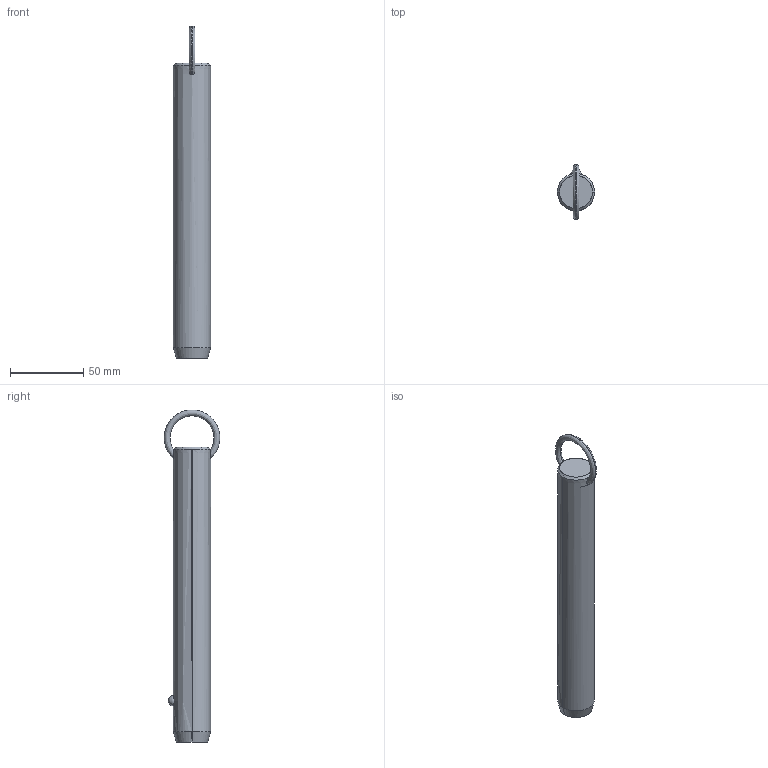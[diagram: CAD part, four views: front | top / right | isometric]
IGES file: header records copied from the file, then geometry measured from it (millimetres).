
Start section: SolidWorks IGES file using analytic representation for surfaces
Global section: file name: C:\Users\liam_\OneDrive\Documents\WORK\Work for WixRoyd\Job Files\J-00019 - Matt Davis CAD Checking\04. CAD Drawings\automotion20190605\P1250.2_v2\P1250.2_v2_20190729_IGES\P1250.100-620.igs; native system: SolidWorks 2017; preprocessor: SolidWorks 2017; author: liam_; date: 190730.174655; units: millimetre
Bounding box: 25.4 x 38.1 x 227.29 mm (x, y, z)
Surface area: 17884.2 mm2 (no closed solid volume)
Topology: 0 solids, 0 shells, 12 faces, 298 edges, 296 vertices
Faces by surface type: revolution 8, bspline 4
